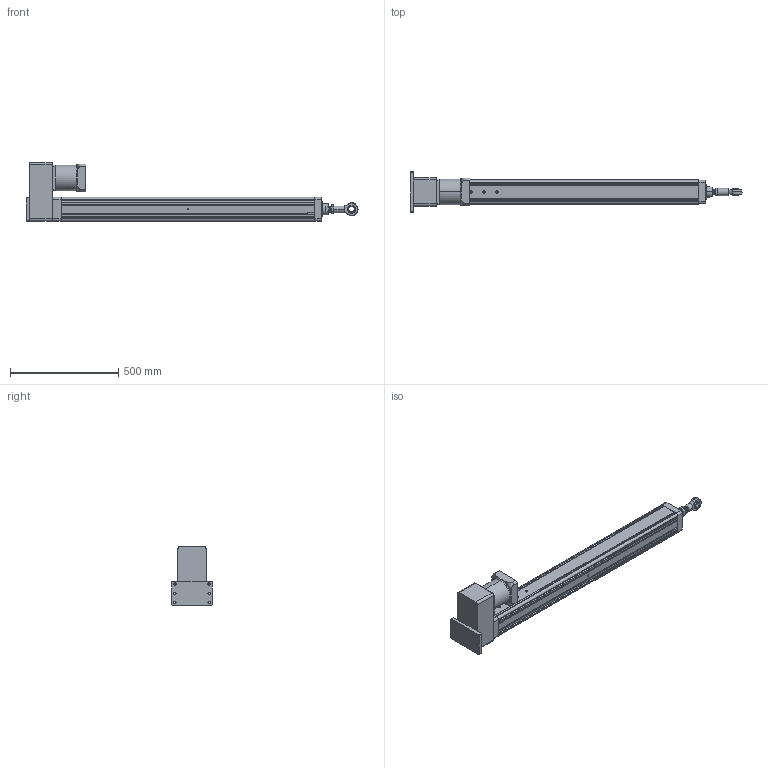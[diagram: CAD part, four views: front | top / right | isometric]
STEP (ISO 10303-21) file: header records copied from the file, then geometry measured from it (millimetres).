
FILE_DESCRIPTION (( 'STEP AP203' ), '1' );
FILE_NAME ('YRJ110-L1000-H4K3.STEP', '2020-01-06T01:46:06', ( 'User' ), ( 'China' ), 'SwSTEP 2.0', 'SolidWorks 2016', '' );
FILE_SCHEMA (( 'CONFIG_CONTROL_DESIGN' ));
Length unit declared in the file: millimetre
Products named in the file (12): _BNC01-SI25T_K-R-001; _BNC01-SI25T_K-R-002; 095-100俴最倰第; BNC01-SI25T_K-R; H5-110-1; K3-110; 萇儂碟-110; YRJ110-L1000-H4K3; H3-110-2; H4-110; 120遺1500W珨撰熬厒儂; K1-110
Assembly tree (11 placements, depth 4):
  YRJ110-L1000-H4K3
    095-100俴最倰第
    H5-110-1
    萇儂碟-110
    H3-110-2
    H4-110
    120遺1500W珨撰熬厒儂
    K3-110
      K1-110
      BNC01-SI25T_K-R
        _BNC01-SI25T_K-R-001
        _BNC01-SI25T_K-R-002
Bounding box: 1531 x 185 x 271 mm (x, y, z)
Volume: 11593290 mm3; surface area: 1458141.2 mm2
Topology: 9 solids, 9 shells, 410 faces, 1116 edges, 713 vertices
Faces by surface type: cylinder 178, plane 173, cone 36, bspline 18, torus 5
Entity records: 23256 total; most frequent: CARTESIAN_POINT 11868, ORIENTED_EDGE 2176, DIRECTION 2052, EDGE_CURVE 1088, AXIS2_PLACEMENT_3D 721, VERTEX_POINT 713, LINE 610, VECTOR 610
